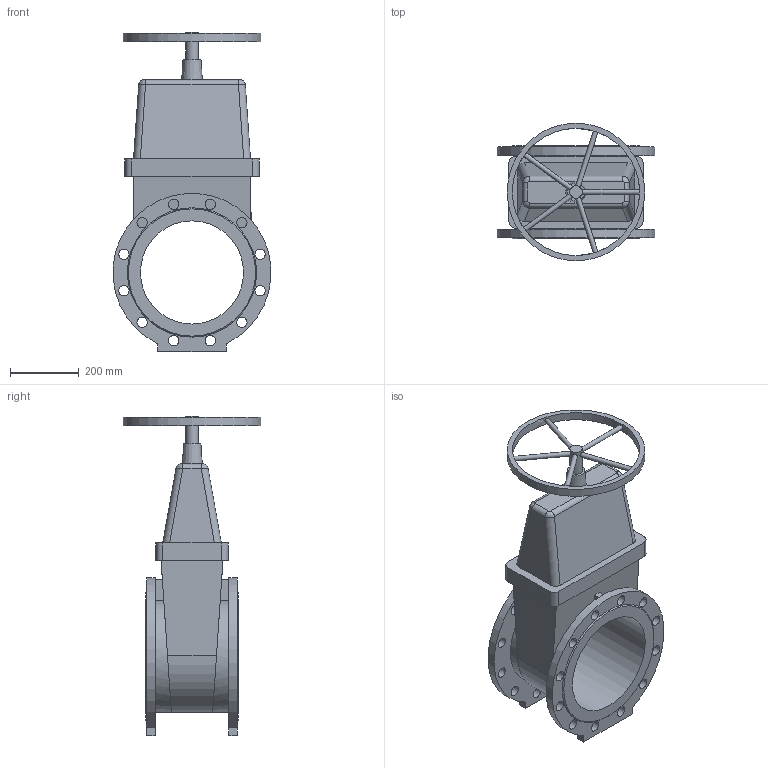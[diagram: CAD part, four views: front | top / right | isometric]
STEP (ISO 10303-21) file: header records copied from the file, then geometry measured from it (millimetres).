
FILE_DESCRIPTION(('STEP AP203'), '1');
FILE_NAME('Çàäâèæêà 47GV DN300 PN10_PN16_L270 ñ ìàõîâèêîì', '', ('UNSPECIFIED'), ('UNSPECIFIED'), 'ASCON STEP Converter 1.6', 'ASCON Math Kernel', '');
FILE_SCHEMA(('CONFIG_CONTROL_DESIGN'));
Length unit declared in the file: millimetre
Bounding box: 458.56 x 400 x 928 mm (x, y, z)
Volume: 31203867.7 mm3; surface area: 1539882.5 mm2
Topology: 1 solids, 1 shells, 113 faces, 293 edges, 191 vertices
Faces by surface type: cylinder 58, plane 48, bspline 4, cone 3
Full cylindrical faces by diameter (mm): 14 x5, 30 x24, 36 x1, 300 x1, 370 x1, 400 x1
Entity records: 5709 total; most frequent: CARTESIAN_POINT 2060, DIRECTION 536, ORIENTED_EDGE 500, EDGE_CURVE 250, EDGE_LOOP 222, AXIS2_PLACEMENT_3D 208, VERTEX_POINT 188, FACE_BOUND 151
